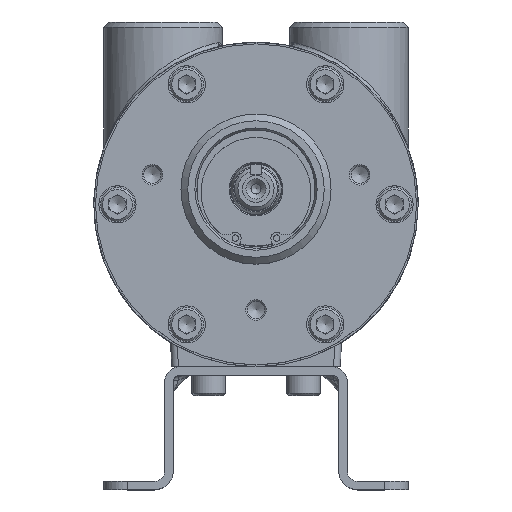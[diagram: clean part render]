
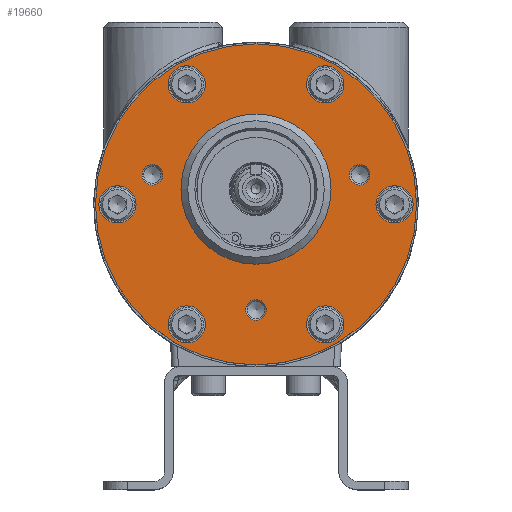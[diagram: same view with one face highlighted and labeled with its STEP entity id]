
A CAD part, top view. The second image highlights one B-rep face of the part: STEP entity #19660.
In plain terms, the highlighted planar face has unit normal (0, 0, 1).
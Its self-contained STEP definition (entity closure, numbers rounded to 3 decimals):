
#333 = VERTEX_POINT ( 'NONE', #2230 ) ;
#382 = EDGE_CURVE ( 'NONE', #5179, #5179, #16991, .T. ) ;
#417 = DIRECTION ( 'NONE',  ( 0., 0., 1. ) ) ;
#552 = FACE_BOUND ( 'NONE', #20471, .T. ) ;
#823 = CARTESIAN_POINT ( 'NONE',  ( 0., -31.22, 38.05 ) ) ;
#914 = DIRECTION ( 'NONE',  ( 0., -1., 0. ) ) ;
#985 = EDGE_CURVE ( 'NONE', #14365, #14365, #22588, .T. ) ;
#1140 = CARTESIAN_POINT ( 'NONE',  ( -20.5, 35.507, 38.05 ) ) ;
#1324 = AXIS2_PLACEMENT_3D ( 'NONE', #21989, #12925, #20195 ) ;
#1569 = CARTESIAN_POINT ( 'NONE',  ( 20.5, 35.507, 38.05 ) ) ;
#2230 = CARTESIAN_POINT ( 'NONE',  ( 0., -17.7, 38.05 ) ) ;
#2635 = CARTESIAN_POINT ( 'NONE',  ( 20.5, -35.507, 38.05 ) ) ;
#2689 = FACE_OUTER_BOUND ( 'NONE', #11624, .T. ) ;
#2730 = DIRECTION ( 'NONE',  ( 0., 0., 1. ) ) ;
#2892 = EDGE_CURVE ( 'NONE', #19949, #19949, #17876, .T. ) ;
#2996 = DIRECTION ( 'NONE',  ( 1., 0., 0. ) ) ;
#3025 = ORIENTED_EDGE ( 'NONE', *, *, #20407, .F. ) ;
#3229 = CIRCLE ( 'NONE', #1324, 5.5 ) ;
#3629 = CARTESIAN_POINT ( 'NONE',  ( 33.723, 8.75, 38.05 ) ) ;
#3735 = CIRCLE ( 'NONE', #18204, 3.053 ) ;
#3824 = AXIS2_PLACEMENT_3D ( 'NONE', #16507, #21982, #20422 ) ;
#4431 = ORIENTED_EDGE ( 'NONE', *, *, #17629, .F. ) ;
#4502 = ORIENTED_EDGE ( 'NONE', *, *, #20250, .F. ) ;
#4732 = AXIS2_PLACEMENT_3D ( 'NONE', #823, #2730, #17170 ) ;
#4952 = DIRECTION ( 'NONE',  ( 1., 0., 0. ) ) ;
#5179 = VERTEX_POINT ( 'NONE', #10686 ) ;
#5402 = CARTESIAN_POINT ( 'NONE',  ( -41., -5.5, 38.05 ) ) ;
#6065 = FACE_BOUND ( 'NONE', #20045, .T. ) ;
#6266 = DIRECTION ( 'NONE',  ( 0., -1., 0. ) ) ;
#6268 = CIRCLE ( 'NONE', #4732, 3.053 ) ;
#6360 = DIRECTION ( 'NONE',  ( 0., 0., 1. ) ) ;
#6772 = EDGE_LOOP ( 'NONE', ( #19179 ) ) ;
#6957 = CARTESIAN_POINT ( 'NONE',  ( -30.67, 8.75, 38.05 ) ) ;
#7690 = ORIENTED_EDGE ( 'NONE', *, *, #382, .F. ) ;
#7715 = DIRECTION ( 'NONE',  ( 0., -1., 0. ) ) ;
#7852 = CARTESIAN_POINT ( 'NONE',  ( -39.6, -10.6, 38.05 ) ) ;
#8422 = CARTESIAN_POINT ( 'NONE',  ( 30.67, 8.75, 38.05 ) ) ;
#8767 = DIRECTION ( 'NONE',  ( 0., 0., 1. ) ) ;
#9217 = EDGE_CURVE ( 'NONE', #13040, #13040, #12346, .T. ) ;
#9382 = CARTESIAN_POINT ( 'NONE',  ( 0., 47.5, 38.05 ) ) ;
#9541 = PLANE ( 'NONE',  #22452 ) ;
#9559 = VERTEX_POINT ( 'NONE', #10660 ) ;
#9661 = FACE_BOUND ( 'NONE', #16336, .T. ) ;
#9833 = DIRECTION ( 'NONE',  ( 0., 0., -1. ) ) ;
#9895 = FACE_BOUND ( 'NONE', #18786, .T. ) ;
#10081 = CARTESIAN_POINT ( 'NONE',  ( 3.053, -31.22, 38.05 ) ) ;
#10517 = ORIENTED_EDGE ( 'NONE', *, *, #985, .F. ) ;
#10660 = CARTESIAN_POINT ( 'NONE',  ( -27.617, 8.75, 38.05 ) ) ;
#10686 = CARTESIAN_POINT ( 'NONE',  ( 20.5, -41.007, 38.05 ) ) ;
#10909 = AXIS2_PLACEMENT_3D ( 'NONE', #2635, #6360, #13611 ) ;
#11114 = AXIS2_PLACEMENT_3D ( 'NONE', #13400, #17219, #6266 ) ;
#11436 = FACE_BOUND ( 'NONE', #22388, .T. ) ;
#11554 = FACE_BOUND ( 'NONE', #12282, .T. ) ;
#11624 = EDGE_LOOP ( 'NONE', ( #21816 ) ) ;
#11669 = DIRECTION ( 'NONE',  ( 0., 1., 0. ) ) ;
#11736 = CARTESIAN_POINT ( 'NONE',  ( 41., -5.5, 38.05 ) ) ;
#12066 = EDGE_CURVE ( 'NONE', #15882, #15882, #6268, .T. ) ;
#12282 = EDGE_LOOP ( 'NONE', ( #10517 ) ) ;
#12346 = CIRCLE ( 'NONE', #14649, 47.5 ) ;
#12785 = ORIENTED_EDGE ( 'NONE', *, *, #2892, .F. ) ;
#12812 = CARTESIAN_POINT ( 'NONE',  ( -20.5, 30.007, 38.05 ) ) ;
#12925 = DIRECTION ( 'NONE',  ( 0., 0., 1. ) ) ;
#13011 = EDGE_CURVE ( 'NONE', #22922, #22922, #3229, .T. ) ;
#13040 = VERTEX_POINT ( 'NONE', #9382 ) ;
#13099 = VERTEX_POINT ( 'NONE', #20367 ) ;
#13309 = DIRECTION ( 'NONE',  ( 0., 0., -1. ) ) ;
#13311 = AXIS2_PLACEMENT_3D ( 'NONE', #8422, #22618, #4952 ) ;
#13400 = CARTESIAN_POINT ( 'NONE',  ( -20.5, -35.507, 38.05 ) ) ;
#13611 = DIRECTION ( 'NONE',  ( 0., -1., 0. ) ) ;
#13717 = AXIS2_PLACEMENT_3D ( 'NONE', #1569, #8767, #23297 ) ;
#14093 = CIRCLE ( 'NONE', #13717, 5.5 ) ;
#14225 = DIRECTION ( 'NONE',  ( 0., 0., 1. ) ) ;
#14365 = VERTEX_POINT ( 'NONE', #12812 ) ;
#14462 = VERTEX_POINT ( 'NONE', #5402 ) ;
#14649 = AXIS2_PLACEMENT_3D ( 'NONE', #15050, #9833, #22440 ) ;
#15050 = CARTESIAN_POINT ( 'NONE',  ( 0., 0., 38.05 ) ) ;
#15230 = FACE_BOUND ( 'NONE', #19955, .T. ) ;
#15882 = VERTEX_POINT ( 'NONE', #10081 ) ;
#16117 = VERTEX_POINT ( 'NONE', #21589 ) ;
#16336 = EDGE_LOOP ( 'NONE', ( #16389 ) ) ;
#16389 = ORIENTED_EDGE ( 'NONE', *, *, #20515, .F. ) ;
#16507 = CARTESIAN_POINT ( 'NONE',  ( 0., 4.5, 38.05 ) ) ;
#16695 = EDGE_LOOP ( 'NONE', ( #18759 ) ) ;
#16786 = EDGE_CURVE ( 'NONE', #16117, #16117, #18325, .T. ) ;
#16991 = CIRCLE ( 'NONE', #10909, 5.5 ) ;
#17170 = DIRECTION ( 'NONE',  ( 1., 0., 0. ) ) ;
#17219 = DIRECTION ( 'NONE',  ( 0., 0., 1. ) ) ;
#17629 = EDGE_CURVE ( 'NONE', #9559, #9559, #3735, .T. ) ;
#17876 = CIRCLE ( 'NONE', #13311, 3.053 ) ;
#18204 = AXIS2_PLACEMENT_3D ( 'NONE', #6957, #14225, #2996 ) ;
#18229 = ORIENTED_EDGE ( 'NONE', *, *, #13011, .F. ) ;
#18275 = CIRCLE ( 'NONE', #18657, 5.5 ) ;
#18325 = CIRCLE ( 'NONE', #11114, 5.5 ) ;
#18543 = CARTESIAN_POINT ( 'NONE',  ( -41., 0., 38.05 ) ) ;
#18657 = AXIS2_PLACEMENT_3D ( 'NONE', #18543, #417, #7715 ) ;
#18684 = FACE_BOUND ( 'NONE', #20769, .T. ) ;
#18759 = ORIENTED_EDGE ( 'NONE', *, *, #12066, .F. ) ;
#18786 = EDGE_LOOP ( 'NONE', ( #18229 ) ) ;
#19028 = FACE_BOUND ( 'NONE', #16695, .T. ) ;
#19179 = ORIENTED_EDGE ( 'NONE', *, *, #16786, .F. ) ;
#19502 = DIRECTION ( 'NONE',  ( 0., 0., 1. ) ) ;
#19660 = ADVANCED_FACE ( 'NONE', ( #11436, #19028, #18684, #9661, #11554, #6065, #9895, #15230, #20703, #552, #2689 ), #9541, .F. ) ;
#19949 = VERTEX_POINT ( 'NONE', #3629 ) ;
#19955 = EDGE_LOOP ( 'NONE', ( #7690 ) ) ;
#20045 = EDGE_LOOP ( 'NONE', ( #3025 ) ) ;
#20195 = DIRECTION ( 'NONE',  ( 0., -1., 0. ) ) ;
#20250 = EDGE_CURVE ( 'NONE', #14462, #14462, #18275, .T. ) ;
#20367 = CARTESIAN_POINT ( 'NONE',  ( 20.5, 30.007, 38.05 ) ) ;
#20407 = EDGE_CURVE ( 'NONE', #13099, #13099, #14093, .T. ) ;
#20422 = DIRECTION ( 'NONE',  ( 0., -1., 0. ) ) ;
#20471 = EDGE_LOOP ( 'NONE', ( #4502 ) ) ;
#20515 = EDGE_CURVE ( 'NONE', #333, #333, #20938, .T. ) ;
#20703 = FACE_BOUND ( 'NONE', #6772, .T. ) ;
#20769 = EDGE_LOOP ( 'NONE', ( #12785 ) ) ;
#20938 = CIRCLE ( 'NONE', #3824, 22.2 ) ;
#21425 = AXIS2_PLACEMENT_3D ( 'NONE', #1140, #19502, #914 ) ;
#21589 = CARTESIAN_POINT ( 'NONE',  ( -20.5, -41.007, 38.05 ) ) ;
#21816 = ORIENTED_EDGE ( 'NONE', *, *, #9217, .F. ) ;
#21982 = DIRECTION ( 'NONE',  ( 0., 0., 1. ) ) ;
#21989 = CARTESIAN_POINT ( 'NONE',  ( 41., 0., 38.05 ) ) ;
#22388 = EDGE_LOOP ( 'NONE', ( #4431 ) ) ;
#22440 = DIRECTION ( 'NONE',  ( 0., 1., 0. ) ) ;
#22452 = AXIS2_PLACEMENT_3D ( 'NONE', #7852, #13309, #11669 ) ;
#22588 = CIRCLE ( 'NONE', #21425, 5.5 ) ;
#22618 = DIRECTION ( 'NONE',  ( 0., 0., 1. ) ) ;
#22922 = VERTEX_POINT ( 'NONE', #11736 ) ;
#23297 = DIRECTION ( 'NONE',  ( 0., -1., 0. ) ) ;
